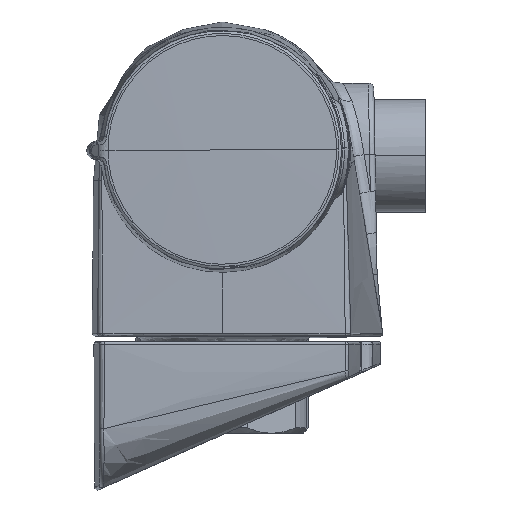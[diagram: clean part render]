
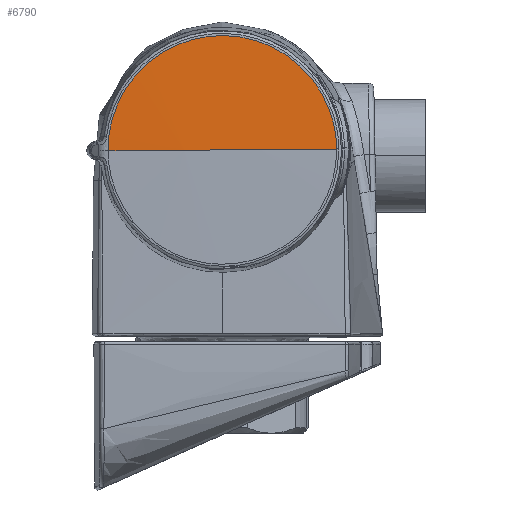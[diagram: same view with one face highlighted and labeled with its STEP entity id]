
A CAD part, left-side view. The second image highlights one B-rep face of the part: STEP entity #6790.
In plain terms, the highlighted spherical face has radius 1000 mm.
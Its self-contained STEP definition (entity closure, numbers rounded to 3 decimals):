
#3491 = AXIS2_PLACEMENT_3D ( 'NONE', #28078, #9099, #18971 ) ;
#3617 = CARTESIAN_POINT ( 'NONE',  ( -171.044, 21.404, 20.766 ) ) ;
#4257 = CIRCLE ( 'NONE', #3491, 1000. ) ;
#6236 = ORIENTED_EDGE ( 'NONE', *, *, #33687, .F. ) ;
#6790 = ADVANCED_FACE ( 'NONE', ( #11532 ), #10525, .T. ) ;
#9099 = DIRECTION ( 'NONE',  ( 0., 0.008, 1. ) ) ;
#10036 = DIRECTION ( 'NONE',  ( -1., 0., 0. ) ) ;
#10525 = SPHERICAL_SURFACE ( 'NONE', #39400, 1000. ) ;
#11165 =( BOUNDED_CURVE ( )  B_SPLINE_CURVE ( 2, ( #19692, #3617, #19561, #32292, #26166 ),
 .UNSPECIFIED., .F., .F. ) 
 B_SPLINE_CURVE_WITH_KNOTS ( ( 3, 2, 3 ),
 ( 0., 0.5, 1. ),
 .UNSPECIFIED. ) 
 CURVE ( )  GEOMETRIC_REPRESENTATION_ITEM ( )  RATIONAL_B_SPLINE_CURVE ( ( 1., 0.707, 1., 0.707, 1. ) ) 
 REPRESENTATION_ITEM ( '' )  );
#11532 = FACE_OUTER_BOUND ( 'NONE', #24365, .T. ) ;
#12989 = CARTESIAN_POINT ( 'NONE',  ( -171.044, 21.237, -0.466 ) ) ;
#18971 = DIRECTION ( 'NONE',  ( 0., -1., 0.008 ) ) ;
#19454 = VERTEX_POINT ( 'NONE', #35050 ) ;
#19561 = CARTESIAN_POINT ( 'NONE',  ( -171.044, 0.172, 20.937 ) ) ;
#19692 = CARTESIAN_POINT ( 'NONE',  ( -171.044, 21.237, -0.466 ) ) ;
#21468 = VERTEX_POINT ( 'NONE', #12989 ) ;
#24365 = EDGE_LOOP ( 'NONE', ( #34188, #27183, #6236 ) ) ;
#25761 = VERTEX_POINT ( 'NONE', #27423 ) ;
#25975 = CARTESIAN_POINT ( 'NONE',  ( 828.73, 0., -0.3 ) ) ;
#26166 = CARTESIAN_POINT ( 'NONE',  ( -171.044, -21.237, -0.128 ) ) ;
#27183 = ORIENTED_EDGE ( 'NONE', *, *, #38047, .T. ) ;
#27423 = CARTESIAN_POINT ( 'NONE',  ( -171.044, -21.237, -0.134 ) ) ;
#28062 = EDGE_CURVE ( 'NONE', #21468, #19454, #11165, .T. ) ;
#28078 = CARTESIAN_POINT ( 'NONE',  ( 828.73, 0., -0.3 ) ) ;
#32292 = CARTESIAN_POINT ( 'NONE',  ( -171.044, -21.066, 21.109 ) ) ;
#33687 = EDGE_CURVE ( 'NONE', #19454, #25761, #35264, .T. ) ;
#34188 = ORIENTED_EDGE ( 'NONE', *, *, #28062, .F. ) ;
#35050 = CARTESIAN_POINT ( 'NONE',  ( -171.044, -21.237, -0.128 ) ) ;
#35264 =( BOUNDED_CURVE ( )  B_SPLINE_CURVE ( 2, ( #35549, #35971, #39869 ),
 .UNSPECIFIED., .F., .F. ) 
 B_SPLINE_CURVE_WITH_KNOTS ( ( 3, 3 ),
 ( 0., 0. ),
 .UNSPECIFIED. ) 
 CURVE ( )  GEOMETRIC_REPRESENTATION_ITEM ( )  RATIONAL_B_SPLINE_CURVE ( ( 1., 1., 1. ) ) 
 REPRESENTATION_ITEM ( '' )  );
#35549 = CARTESIAN_POINT ( 'NONE',  ( -171.044, -21.237, -0.128 ) ) ;
#35701 = DIRECTION ( 'NONE',  ( 0., -0.008, -1. ) ) ;
#35971 = CARTESIAN_POINT ( 'NONE',  ( -171.044, -21.237, -0.131 ) ) ;
#38047 = EDGE_CURVE ( 'NONE', #21468, #25761, #4257, .T. ) ;
#39400 = AXIS2_PLACEMENT_3D ( 'NONE', #25975, #35701, #10036 ) ;
#39869 = CARTESIAN_POINT ( 'NONE',  ( -171.044, -21.237, -0.134 ) ) ;
